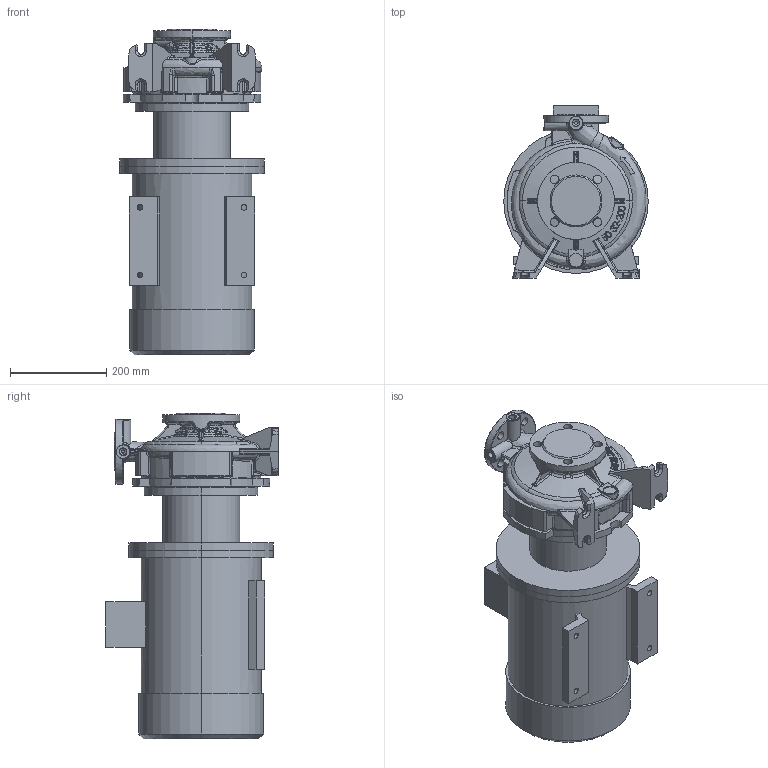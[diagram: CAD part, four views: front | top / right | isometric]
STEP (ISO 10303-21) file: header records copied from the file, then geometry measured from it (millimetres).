
FILE_DESCRIPTION (( 'STEP AP214' ), '1' );
FILE_NAME ('KRM 50-32-200-2-5,5.STEP', '2026-04-23T08:42:48', ( '' ), ( '' ), 'SwSTEP 2.0', 'SolidWorks 2016', '' );
FILE_SCHEMA (( 'AUTOMOTIVE_DESIGN' ));
Length unit declared in the file: millimetre
Products named in the file (1): KRM 50-32-200-2-5,5
Bounding box: 300 x 358 x 676.3 mm (x, y, z)
Volume: 31561783.2 mm3; surface area: 1330633.1 mm2
Topology: 4 solids, 4 shells, 974 faces, 2431 edges, 1479 vertices
Faces by surface type: bspline 346, plane 226, cylinder 212, cone 85, torus 78, sphere 27
Entity records: 66133 total; most frequent: CARTESIAN_POINT 35130, ORIENTED_EDGE 4828, DIRECTION 3424, EDGE_CURVE 2414, VERTEX_POINT 1479, AXIS2_PLACEMENT_3D 1409, EDGE_LOOP 1031, UNCERTAINTY_MEASURE_WITH_UNIT 980
